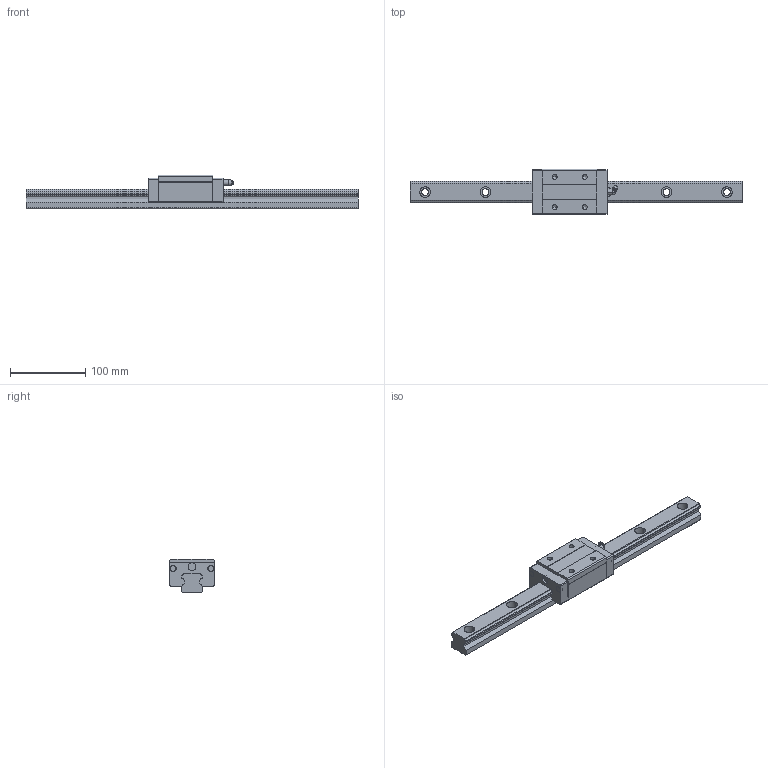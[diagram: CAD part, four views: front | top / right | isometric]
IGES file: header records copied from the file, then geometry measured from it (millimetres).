
Global section: file name: No Iges File Name specified; native system: AutoDesk Inventor R10; preprocessor: AutoDesk Inventor Iges Exporter R10; author: No Author specified; organization: No Organization specified; date: 20101222.163416; units: millimetre
Bounding box: 440 x 60 x 45 mm (x, y, z)
Surface area: 82411.2 mm2 (no closed solid volume)
Topology: 0 solids, 0 shells, 190 faces, 1241 edges, 1221 vertices
Faces by surface type: bspline 190
